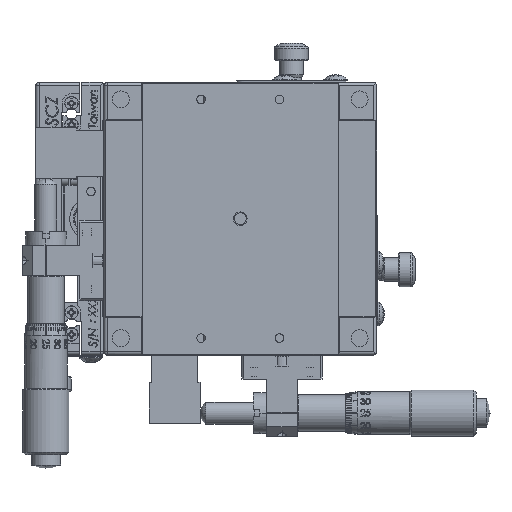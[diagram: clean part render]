
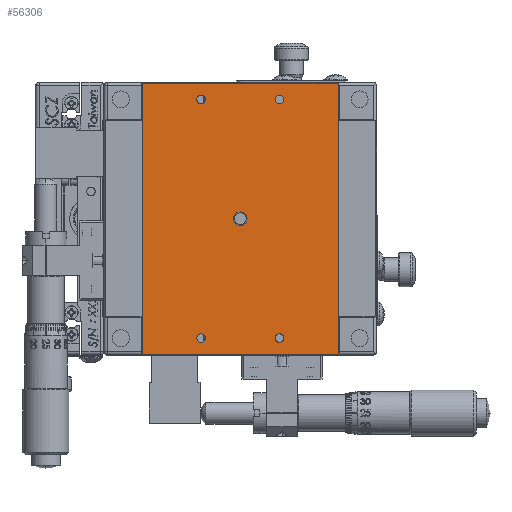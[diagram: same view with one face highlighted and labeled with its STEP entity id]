
A CAD part, front view. The second image highlights one B-rep face of the part: STEP entity #56306.
In plain terms, the highlighted planar face has unit normal (0, -1, 0).
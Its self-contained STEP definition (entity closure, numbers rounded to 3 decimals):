
#1963 = CARTESIAN_POINT ( 'NONE',  ( -32.299, -27.055, -39.714 ) ) ;
#2684 = FACE_BOUND ( 'NONE', #44915, .T. ) ;
#5242 = DIRECTION ( 'NONE',  ( 0., -1., 0. ) ) ;
#5244 = ORIENTED_EDGE ( 'NONE', *, *, #98656, .F. ) ;
#5902 = FACE_OUTER_BOUND ( 'NONE', #81496, .T. ) ;
#6932 = DIRECTION ( 'NONE',  ( -1., 0., 0. ) ) ;
#7057 = ORIENTED_EDGE ( 'NONE', *, *, #45822, .F. ) ;
#7937 = AXIS2_PLACEMENT_3D ( 'NONE', #115768, #54037, #126258 ) ;
#9114 = EDGE_CURVE ( 'NONE', #38331, #71955, #107907, .T. ) ;
#9176 = ORIENTED_EDGE ( 'NONE', *, *, #104316, .F. ) ;
#10878 = DIRECTION ( 'NONE',  ( -1., 0., 0. ) ) ;
#11714 = CARTESIAN_POINT ( 'NONE',  ( 6.651, -27.055, 35. ) ) ;
#12467 = EDGE_CURVE ( 'NONE', #71955, #38331, #120250, .T. ) ;
#12577 = ORIENTED_EDGE ( 'NONE', *, *, #41661, .F. ) ;
#13946 = CIRCLE ( 'NONE', #133682, 2. ) ;
#15192 = CARTESIAN_POINT ( 'NONE',  ( -1.599, -27.055, 0. ) ) ;
#15619 = VERTEX_POINT ( 'NONE', #11714 ) ;
#15968 = CARTESIAN_POINT ( 'NONE',  ( -13.849, -27.055, 35. ) ) ;
#17536 = LINE ( 'NONE', #93859, #69288 ) ;
#17612 = CARTESIAN_POINT ( 'NONE',  ( -32.299, -27.055, -39.714 ) ) ;
#17897 = AXIS2_PLACEMENT_3D ( 'NONE', #87880, #26156, #98253 ) ;
#22351 = CARTESIAN_POINT ( 'NONE',  ( -5.599, -27.055, 0. ) ) ;
#26156 = DIRECTION ( 'NONE',  ( 0., -1., 0. ) ) ;
#27763 = VERTEX_POINT ( 'NONE', #59166 ) ;
#29002 = CARTESIAN_POINT ( 'NONE',  ( 9.151, -27.055, -35. ) ) ;
#31234 = EDGE_CURVE ( 'NONE', #112527, #95551, #94356, .T. ) ;
#31632 = AXIS2_PLACEMENT_3D ( 'NONE', #40832, #112883, #51173 ) ;
#37157 = ORIENTED_EDGE ( 'NONE', *, *, #116353, .F. ) ;
#38331 = VERTEX_POINT ( 'NONE', #108122 ) ;
#38940 = EDGE_LOOP ( 'NONE', ( #12577, #101176 ) ) ;
#40832 = CARTESIAN_POINT ( 'NONE',  ( -15.099, -27.055, 35. ) ) ;
#41661 = EDGE_CURVE ( 'NONE', #109148, #106734, #83093, .T. ) ;
#41839 = VERTEX_POINT ( 'NONE', #70602 ) ;
#44915 = EDGE_LOOP ( 'NONE', ( #99626, #81233 ) ) ;
#45361 = DIRECTION ( 'NONE',  ( 0., -1., 0. ) ) ;
#45389 = EDGE_LOOP ( 'NONE', ( #55842, #92292 ) ) ;
#45822 = EDGE_CURVE ( 'NONE', #129561, #95551, #17536, .T. ) ;
#46024 = CARTESIAN_POINT ( 'NONE',  ( 7.901, -27.055, -35. ) ) ;
#47223 = DIRECTION ( 'NONE',  ( 0., -1., 0. ) ) ;
#47751 = CARTESIAN_POINT ( 'NONE',  ( 25.101, -27.055, -39.714 ) ) ;
#48141 = CARTESIAN_POINT ( 'NONE',  ( -16.349, -27.055, 35. ) ) ;
#49255 = PLANE ( 'NONE',  #116216 ) ;
#51173 = DIRECTION ( 'NONE',  ( -1., 0., 0. ) ) ;
#52114 = CARTESIAN_POINT ( 'NONE',  ( 9.151, -27.055, 35. ) ) ;
#52236 = CIRCLE ( 'NONE', #76024, 1.25 ) ;
#54037 = DIRECTION ( 'NONE',  ( 0., -1., 0. ) ) ;
#55842 = ORIENTED_EDGE ( 'NONE', *, *, #120829, .F. ) ;
#56306 = ADVANCED_FACE ( 'NONE', ( #57775, #112554, #61034, #2684, #109308, #5902 ), #49255, .T. ) ;
#56377 = DIRECTION ( 'NONE',  ( -1., 0., 0. ) ) ;
#56886 = DIRECTION ( 'NONE',  ( 0., -1., 0. ) ) ;
#57775 = FACE_BOUND ( 'NONE', #38940, .T. ) ;
#58034 = DIRECTION ( 'NONE',  ( 0., -1., 0. ) ) ;
#59166 = CARTESIAN_POINT ( 'NONE',  ( -13.849, -27.055, -35. ) ) ;
#59642 = DIRECTION ( 'NONE',  ( 0., -1., 0. ) ) ;
#61034 = FACE_BOUND ( 'NONE', #69459, .T. ) ;
#61395 = CIRCLE ( 'NONE', #17897, 1.25 ) ;
#63744 = VECTOR ( 'NONE', #81608, 1000. ) ;
#63832 = VECTOR ( 'NONE', #94952, 1000. ) ;
#63857 = CARTESIAN_POINT ( 'NONE',  ( 25.101, -27.055, 39.714 ) ) ;
#65589 = LINE ( 'NONE', #72789, #92889 ) ;
#66646 = CIRCLE ( 'NONE', #31632, 1.25 ) ;
#67261 = CARTESIAN_POINT ( 'NONE',  ( -15.099, -27.055, -35. ) ) ;
#68916 = DIRECTION ( 'NONE',  ( 0., -1., 0. ) ) ;
#69008 = AXIS2_PLACEMENT_3D ( 'NONE', #46024, #118126, #56377 ) ;
#69288 = VECTOR ( 'NONE', #125120, 1000. ) ;
#69459 = EDGE_LOOP ( 'NONE', ( #37157, #5244 ) ) ;
#70602 = CARTESIAN_POINT ( 'NONE',  ( -32.299, -27.055, 39.714 ) ) ;
#71328 = CARTESIAN_POINT ( 'NONE',  ( -32.299, -27.055, 40. ) ) ;
#71955 = VERTEX_POINT ( 'NONE', #29002 ) ;
#72789 = CARTESIAN_POINT ( 'NONE',  ( 25.101, -27.055, 39.714 ) ) ;
#74448 = AXIS2_PLACEMENT_3D ( 'NONE', #130823, #68916, #6932 ) ;
#76024 = AXIS2_PLACEMENT_3D ( 'NONE', #67261, #5242, #77550 ) ;
#77550 = DIRECTION ( 'NONE',  ( -1., 0., 0. ) ) ;
#79625 = ORIENTED_EDGE ( 'NONE', *, *, #95178, .F. ) ;
#80448 = CARTESIAN_POINT ( 'NONE',  ( -16.349, -27.055, -35. ) ) ;
#80843 = VERTEX_POINT ( 'NONE', #48141 ) ;
#81065 = VERTEX_POINT ( 'NONE', #52114 ) ;
#81233 = ORIENTED_EDGE ( 'NONE', *, *, #9114, .F. ) ;
#81496 = EDGE_LOOP ( 'NONE', ( #114089, #123472, #7057, #86644 ) ) ;
#81608 = DIRECTION ( 'NONE',  ( 0., 0., -1. ) ) ;
#83093 = CIRCLE ( 'NONE', #100470, 2. ) ;
#86505 = EDGE_CURVE ( 'NONE', #41839, #112527, #94272, .T. ) ;
#86644 = ORIENTED_EDGE ( 'NONE', *, *, #121687, .T. ) ;
#87880 = CARTESIAN_POINT ( 'NONE',  ( 7.901, -27.055, 35. ) ) ;
#88841 = EDGE_LOOP ( 'NONE', ( #79625, #9176 ) ) ;
#90131 = CARTESIAN_POINT ( 'NONE',  ( 25.101, -27.055, 40. ) ) ;
#92292 = ORIENTED_EDGE ( 'NONE', *, *, #101900, .F. ) ;
#92889 = VECTOR ( 'NONE', #10878, 1000. ) ;
#93859 = CARTESIAN_POINT ( 'NONE',  ( 25.101, -27.055, 40. ) ) ;
#94272 = LINE ( 'NONE', #71328, #63744 ) ;
#94356 = LINE ( 'NONE', #1963, #63832 ) ;
#94952 = DIRECTION ( 'NONE',  ( 1., 0., 0. ) ) ;
#95178 = EDGE_CURVE ( 'NONE', #99153, #80843, #66646, .T. ) ;
#95551 = VERTEX_POINT ( 'NONE', #47751 ) ;
#98253 = DIRECTION ( 'NONE',  ( -1., 0., 0. ) ) ;
#98656 = EDGE_CURVE ( 'NONE', #15619, #81065, #61395, .T. ) ;
#99153 = VERTEX_POINT ( 'NONE', #15968 ) ;
#99626 = ORIENTED_EDGE ( 'NONE', *, *, #12467, .F. ) ;
#100470 = AXIS2_PLACEMENT_3D ( 'NONE', #108904, #47223, #119335 ) ;
#101176 = ORIENTED_EDGE ( 'NONE', *, *, #109440, .F. ) ;
#101900 = EDGE_CURVE ( 'NONE', #121553, #27763, #52236, .T. ) ;
#102746 = CIRCLE ( 'NONE', #7937, 1.25 ) ;
#103319 = AXIS2_PLACEMENT_3D ( 'NONE', #119772, #58034, #130284 ) ;
#104316 = EDGE_CURVE ( 'NONE', #80843, #99153, #129346, .T. ) ;
#106734 = VERTEX_POINT ( 'NONE', #15192 ) ;
#107042 = CARTESIAN_POINT ( 'NONE',  ( -3.599, -27.055, 0. ) ) ;
#107907 = CIRCLE ( 'NONE', #103319, 1.25 ) ;
#108122 = CARTESIAN_POINT ( 'NONE',  ( 6.651, -27.055, -35. ) ) ;
#108904 = CARTESIAN_POINT ( 'NONE',  ( -3.599, -27.055, 0. ) ) ;
#109148 = VERTEX_POINT ( 'NONE', #22351 ) ;
#109308 = FACE_BOUND ( 'NONE', #45389, .T. ) ;
#109440 = EDGE_CURVE ( 'NONE', #106734, #109148, #13946, .T. ) ;
#112527 = VERTEX_POINT ( 'NONE', #17612 ) ;
#112554 = FACE_BOUND ( 'NONE', #88841, .T. ) ;
#112883 = DIRECTION ( 'NONE',  ( 0., -1., 0. ) ) ;
#114089 = ORIENTED_EDGE ( 'NONE', *, *, #86505, .T. ) ;
#115768 = CARTESIAN_POINT ( 'NONE',  ( -15.099, -27.055, -35. ) ) ;
#116216 = AXIS2_PLACEMENT_3D ( 'NONE', #90131, #59642, #131883 ) ;
#116353 = EDGE_CURVE ( 'NONE', #81065, #15619, #126010, .T. ) ;
#117449 = DIRECTION ( 'NONE',  ( -1., 0., 0. ) ) ;
#118126 = DIRECTION ( 'NONE',  ( 0., -1., 0. ) ) ;
#118616 = CARTESIAN_POINT ( 'NONE',  ( 7.901, -27.055, 35. ) ) ;
#119329 = AXIS2_PLACEMENT_3D ( 'NONE', #118616, #56886, #129118 ) ;
#119335 = DIRECTION ( 'NONE',  ( -1., 0., 0. ) ) ;
#119772 = CARTESIAN_POINT ( 'NONE',  ( 7.901, -27.055, -35. ) ) ;
#120250 = CIRCLE ( 'NONE', #69008, 1.25 ) ;
#120829 = EDGE_CURVE ( 'NONE', #27763, #121553, #102746, .T. ) ;
#121553 = VERTEX_POINT ( 'NONE', #80448 ) ;
#121687 = EDGE_CURVE ( 'NONE', #129561, #41839, #65589, .T. ) ;
#123472 = ORIENTED_EDGE ( 'NONE', *, *, #31234, .T. ) ;
#125120 = DIRECTION ( 'NONE',  ( 0., 0., -1. ) ) ;
#126010 = CIRCLE ( 'NONE', #119329, 1.25 ) ;
#126258 = DIRECTION ( 'NONE',  ( -1., 0., 0. ) ) ;
#129118 = DIRECTION ( 'NONE',  ( -1., 0., 0. ) ) ;
#129346 = CIRCLE ( 'NONE', #74448, 1.25 ) ;
#129561 = VERTEX_POINT ( 'NONE', #63857 ) ;
#130284 = DIRECTION ( 'NONE',  ( -1., 0., 0. ) ) ;
#130823 = CARTESIAN_POINT ( 'NONE',  ( -15.099, -27.055, 35. ) ) ;
#131883 = DIRECTION ( 'NONE',  ( -1., 0., 0. ) ) ;
#133682 = AXIS2_PLACEMENT_3D ( 'NONE', #107042, #45361, #117449 ) ;
